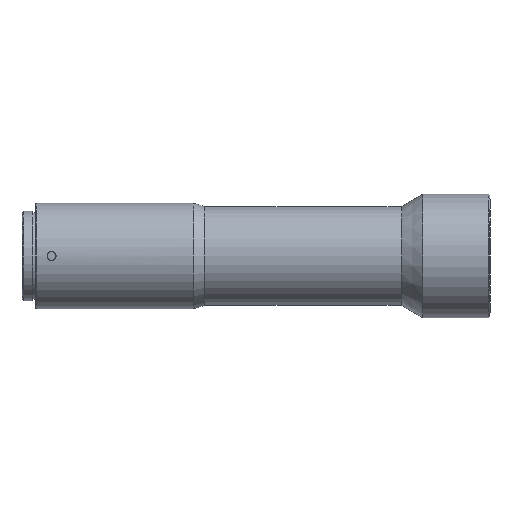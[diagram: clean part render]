
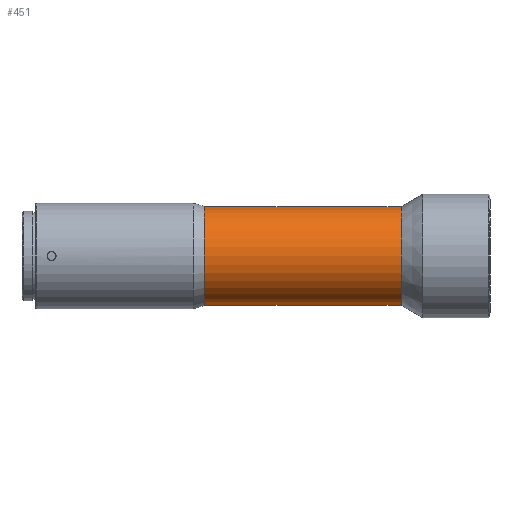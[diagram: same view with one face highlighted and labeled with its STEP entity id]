
A CAD part, front view. The second image highlights one B-rep face of the part: STEP entity #451.
In plain terms, the highlighted cylindrical face has radius 14 mm (diameter 28 mm), a partial arc.
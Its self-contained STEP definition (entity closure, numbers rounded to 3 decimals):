
#51 = AXIS2_PLACEMENT_3D ( 'NONE', #3165, #3162, #3249 ) ;
#92 = AXIS2_PLACEMENT_3D ( 'NONE', #3429, #3224, #3467 ) ;
#202 = VERTEX_POINT ( 'NONE', #4160 ) ;
#208 = VERTEX_POINT ( 'NONE', #4259 ) ;
#228 = VERTEX_POINT ( 'NONE', #4261 ) ;
#239 = VERTEX_POINT ( 'NONE', #4164 ) ;
#240 = VERTEX_POINT ( 'NONE', #4146 ) ;
#251 = VERTEX_POINT ( 'NONE', #2915 ) ;
#356 = VERTEX_POINT ( 'NONE', #2876 ) ;
#360 = VERTEX_POINT ( 'NONE', #2724 ) ;
#451 = ADVANCED_FACE ( 'NONE', ( #997 ), #1016, .T. ) ;
#997 = FACE_OUTER_BOUND ( 'NONE', #1105, .T. ) ;
#1016 = CYLINDRICAL_SURFACE ( 'NONE', #1606, 14. ) ;
#1105 = EDGE_LOOP ( 'NONE', ( #1225, #1236, #1241, #1223, #1206, #1208, #1350, #1230 ) ) ;
#1206 = ORIENTED_EDGE ( 'NONE', *, *, #1468, .T. ) ;
#1208 = ORIENTED_EDGE ( 'NONE', *, *, #1727, .F. ) ;
#1223 = ORIENTED_EDGE ( 'NONE', *, *, #1455, .T. ) ;
#1225 = ORIENTED_EDGE ( 'NONE', *, *, #1392, .F. ) ;
#1230 = ORIENTED_EDGE ( 'NONE', *, *, #1699, .T. ) ;
#1236 = ORIENTED_EDGE ( 'NONE', *, *, #1838, .T. ) ;
#1241 = ORIENTED_EDGE ( 'NONE', *, *, #1388, .T. ) ;
#1350 = ORIENTED_EDGE ( 'NONE', *, *, #1411, .F. ) ;
#1388 = EDGE_CURVE ( 'NONE', #356, #202, #1900, .T. ) ;
#1392 = EDGE_CURVE ( 'NONE', #360, #208, #1903, .T. ) ;
#1411 = EDGE_CURVE ( 'NONE', #240, #239, #1917, .T. ) ;
#1455 = EDGE_CURVE ( 'NONE', #202, #251, #1956, .T. ) ;
#1468 = EDGE_CURVE ( 'NONE', #251, #228, #1974, .T. ) ;
#1606 = AXIS2_PLACEMENT_3D ( 'NONE', #2400, #2657, #2877 ) ;
#1699 = EDGE_CURVE ( 'NONE', #240, #208, #2112, .T. ) ;
#1727 = EDGE_CURVE ( 'NONE', #239, #228, #2124, .T. ) ;
#1838 = EDGE_CURVE ( 'NONE', #360, #356, #2274, .T. ) ;
#1900 = LINE ( 'NONE', #2458, #1902 ) ;
#1902 = VECTOR ( 'NONE', #2456, 1000. ) ;
#1903 = LINE ( 'NONE', #2764, #1906 ) ;
#1906 = VECTOR ( 'NONE', #2427, 1000. ) ;
#1917 = LINE ( 'NONE', #2962, #1925 ) ;
#1925 = VECTOR ( 'NONE', #3042, 1000. ) ;
#1956 = LINE ( 'NONE', #2321, #1960 ) ;
#1960 = VECTOR ( 'NONE', #2373, 1000. ) ;
#1974 = LINE ( 'NONE', #2635, #1976 ) ;
#1976 = VECTOR ( 'NONE', #2873, 1000. ) ;
#2112 = LINE ( 'NONE', #3760, #2114 ) ;
#2114 = VECTOR ( 'NONE', #3765, 1000. ) ;
#2124 = CIRCLE ( 'NONE', #92, 14. ) ;
#2274 = CIRCLE ( 'NONE', #51, 14. ) ;
#2321 = CARTESIAN_POINT ( 'NONE',  ( -10.7, 0., 14. ) ) ;
#2373 = DIRECTION ( 'NONE',  ( -1., 0., 0. ) ) ;
#2400 = CARTESIAN_POINT ( 'NONE',  ( 7.3, 0., 0. ) ) ;
#2427 = DIRECTION ( 'NONE',  ( -1., 0., 0. ) ) ;
#2456 = DIRECTION ( 'NONE',  ( -1., 0., 0. ) ) ;
#2458 = CARTESIAN_POINT ( 'NONE',  ( 7.3, 0., 14. ) ) ;
#2635 = CARTESIAN_POINT ( 'NONE',  ( 7.3, 0., 14. ) ) ;
#2657 = DIRECTION ( 'NONE',  ( -1., 0., 0. ) ) ;
#2724 = CARTESIAN_POINT ( 'NONE',  ( 7.3, 0., -14. ) ) ;
#2764 = CARTESIAN_POINT ( 'NONE',  ( 7.3, 0., -14. ) ) ;
#2873 = DIRECTION ( 'NONE',  ( -1., 0., 0. ) ) ;
#2876 = CARTESIAN_POINT ( 'NONE',  ( 7.3, 0., 14. ) ) ;
#2877 = DIRECTION ( 'NONE',  ( 0., 0., 1. ) ) ;
#2915 = CARTESIAN_POINT ( 'NONE',  ( -23.7, 0., 14. ) ) ;
#2962 = CARTESIAN_POINT ( 'NONE',  ( 7.3, 0., -14. ) ) ;
#3042 = DIRECTION ( 'NONE',  ( -1., 0., 0. ) ) ;
#3162 = DIRECTION ( 'NONE',  ( -1., 0., 0. ) ) ;
#3165 = CARTESIAN_POINT ( 'NONE',  ( 7.3, 0., 0. ) ) ;
#3224 = DIRECTION ( 'NONE',  ( -1., 0., 0. ) ) ;
#3249 = DIRECTION ( 'NONE',  ( 0., 0., -1. ) ) ;
#3429 = CARTESIAN_POINT ( 'NONE',  ( -48.622, 0., 0. ) ) ;
#3467 = DIRECTION ( 'NONE',  ( 0., 0., 1. ) ) ;
#3760 = CARTESIAN_POINT ( 'NONE',  ( -10.7, 0., -14. ) ) ;
#3765 = DIRECTION ( 'NONE',  ( 1., 0., 0. ) ) ;
#4146 = CARTESIAN_POINT ( 'NONE',  ( -23.7, 0., -14. ) ) ;
#4160 = CARTESIAN_POINT ( 'NONE',  ( 2.3, 0., 14. ) ) ;
#4164 = CARTESIAN_POINT ( 'NONE',  ( -48.622, 0., -14. ) ) ;
#4259 = CARTESIAN_POINT ( 'NONE',  ( 2.3, 0., -14. ) ) ;
#4261 = CARTESIAN_POINT ( 'NONE',  ( -48.622, 0., 14. ) ) ;
